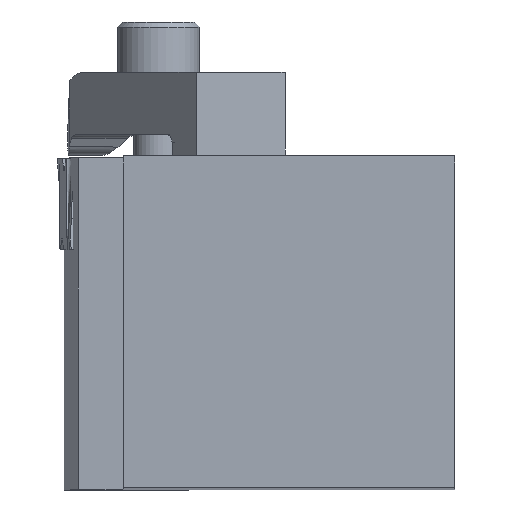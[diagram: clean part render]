
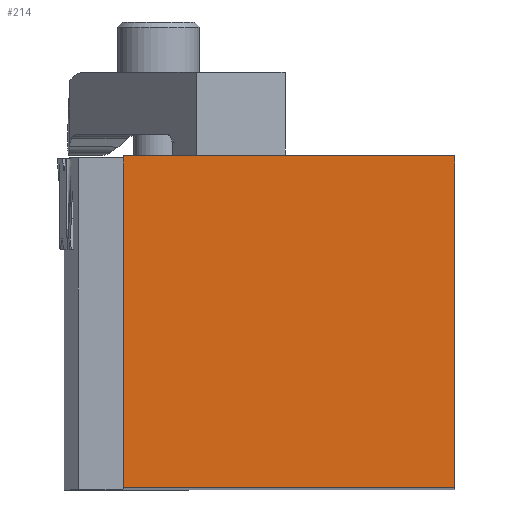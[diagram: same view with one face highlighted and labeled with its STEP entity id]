
A CAD part, top view. The second image highlights one B-rep face of the part: STEP entity #214.
In plain terms, the highlighted planar face has unit normal (0, 0, 1).
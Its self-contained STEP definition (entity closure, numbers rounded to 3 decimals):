
#135=FACE_OUTER_BOUND('',#381,.T.);
#214=ADVANCED_FACE('',(#135),#282,.T.);
#282=PLANE('',#1507);
#381=EDGE_LOOP('',(#585,#586,#587,#588));
#585=ORIENTED_EDGE('',*,*,#1019,.T.);
#586=ORIENTED_EDGE('',*,*,#1031,.T.);
#587=ORIENTED_EDGE('',*,*,#1025,.T.);
#588=ORIENTED_EDGE('',*,*,#1028,.F.);
#866=VERTEX_POINT('',#2048);
#867=VERTEX_POINT('',#2050);
#869=VERTEX_POINT('',#2060);
#871=VERTEX_POINT('',#2063);
#1019=EDGE_CURVE('',#867,#866,#1196,.T.);
#1025=EDGE_CURVE('',#871,#869,#1202,.T.);
#1028=EDGE_CURVE('',#867,#869,#1205,.T.);
#1031=EDGE_CURVE('',#866,#871,#1208,.T.);
#1196=LINE('',#2049,#1337);
#1202=LINE('',#2062,#1343);
#1205=LINE('',#2068,#1346);
#1208=LINE('',#2072,#1349);
#1337=VECTOR('',#1697,1.);
#1343=VECTOR('',#1709,1.);
#1346=VECTOR('',#1714,1.);
#1349=VECTOR('',#1719,1.);
#1507=AXIS2_PLACEMENT_3D('',#2074,#1722,#1723);
#1697=DIRECTION('',(1.,0.,0.));
#1709=DIRECTION('',(-1.,0.,0.));
#1714=DIRECTION('',(0.,1.,0.));
#1719=DIRECTION('',(0.,1.,0.));
#1722=DIRECTION('',(0.,0.,1.));
#1723=DIRECTION('',(0.,-1.,0.));
#2048=CARTESIAN_POINT('',(0.191,0.,0.));
#2049=CARTESIAN_POINT('',(-18.764,0.,0.));
#2050=CARTESIAN_POINT('',(-31.56,0.,0.));
#2060=CARTESIAN_POINT('',(-31.56,31.75,0.));
#2062=CARTESIAN_POINT('',(-18.764,31.75,0.));
#2063=CARTESIAN_POINT('',(0.191,31.75,0.));
#2068=CARTESIAN_POINT('',(-31.56,6.541,0.));
#2072=CARTESIAN_POINT('',(0.191,6.541,0.));
#2074=CARTESIAN_POINT('',(-18.764,6.541,0.));
